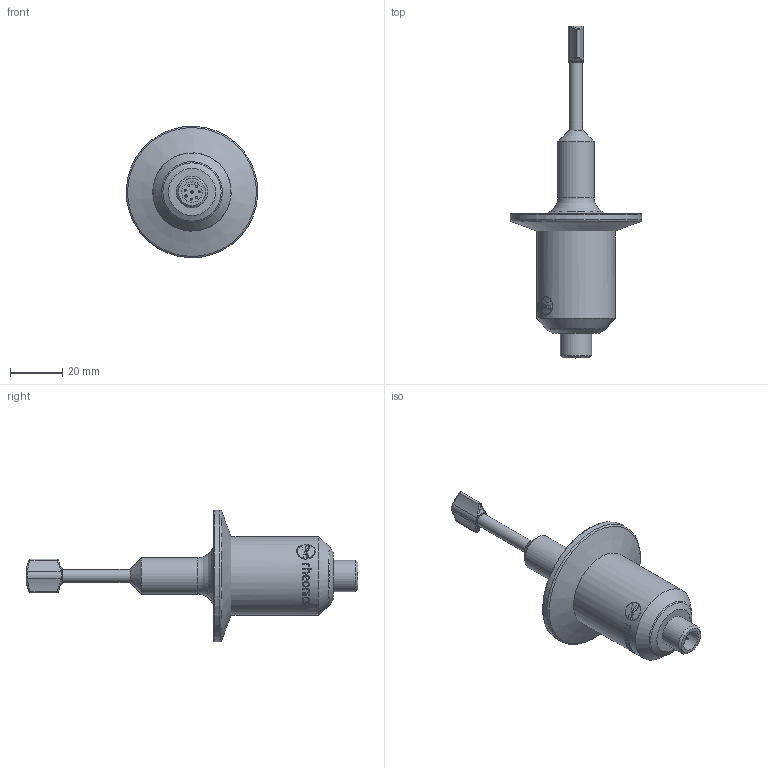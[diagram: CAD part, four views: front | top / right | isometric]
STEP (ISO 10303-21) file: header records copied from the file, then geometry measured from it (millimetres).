
FILE_DESCRIPTION(/* description */ ('Unknown'),/* implementation_level */ '2;1');
FILE_NAME(/* name */ 'SRD-HD-X3-15T',/* time_stamp */ '2024-01-15T16:51:22-05:00',/* author */ ('Unknown'),/* organization */ ('Unknown'),/* preprocessor_version */ 'ST-DEVELOPER v16.7',/* originating_system */ 'Solid Edge',/* authorisation */ 'Unknown');
FILE_SCHEMA (('CONFIG_CONTROL_DESIGN'));
Length unit declared in the file: millimetre
Products named in the file (1): SRD-HD-X3-15T
Bounding box: 50.45 x 127.35 x 50.45 mm (x, y, z)
Volume: 43383.3 mm3; surface area: 10827.5 mm2
Topology: 1 solids, 1 shells, 205 faces, 517 edges, 326 vertices
Faces by surface type: bspline 93, cylinder 43, plane 35, cone 14, torus 12, sphere 8
Full cylindrical faces by diameter (mm): 0.8 x8, 5.019 x1, 8 x1, 12 x1, 13.9 x1, 30 x1, 50.5 x1
Entity records: 10738 total; most frequent: CARTESIAN_POINT 5324, ORIENTED_EDGE 900, DIRECTION 567, EDGE_CURVE 450, VERTEX_POINT 307, EDGE_LOOP 265, FACE_BOUND 265, AXIS2_PLACEMENT_3D 216
